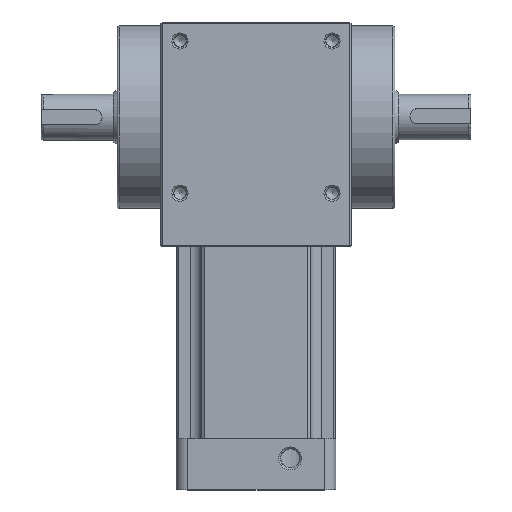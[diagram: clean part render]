
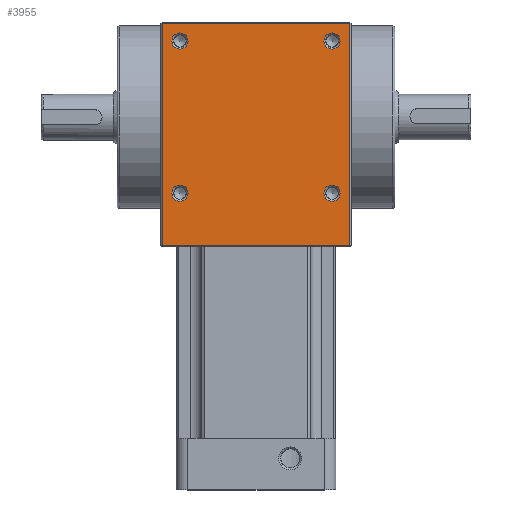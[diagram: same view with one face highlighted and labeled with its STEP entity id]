
A CAD part, top view. The second image highlights one B-rep face of the part: STEP entity #3955.
In plain terms, the highlighted planar face has unit normal (0, 0, 1).
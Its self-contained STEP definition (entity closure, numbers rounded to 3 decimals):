
#3836=CARTESIAN_POINT('',(-24.7,-33.7,50.0));
#3837=VERTEX_POINT('',#3836);
#3844=CARTESIAN_POINT('',(-24.7,24.7,50.0));
#3845=VERTEX_POINT('',#3844);
#3846=CARTESIAN_POINT('',(-24.7,24.7,50.0));
#3847=DIRECTION('',(0.0,-1.0,0.0));
#3848=VECTOR('',#3847,58.4);
#3849=LINE('',#3846,#3848);
#3850=EDGE_CURVE('',#3845,#3837,#3849,.T.);
#3868=CARTESIAN_POINT('',(24.7,-33.7,50.0));
#3869=VERTEX_POINT('',#3868);
#3876=CARTESIAN_POINT('',(24.7,-33.7,50.0));
#3877=DIRECTION('',(-1.0,0.0,0.0));
#3878=VECTOR('',#3877,49.4);
#3879=LINE('',#3876,#3878);
#3880=EDGE_CURVE('',#3869,#3837,#3879,.T.);
#3888=CARTESIAN_POINT('',(0.,0.0,50.0));
#3889=DIRECTION('',(0.0,0.0,1.0));
#3890=DIRECTION('',(1.0,0.0,0.0));
#3891=AXIS2_PLACEMENT_3D('',#3888,#3889,#3890);
#3892=PLANE('',#3891);
#3893=ORIENTED_EDGE('',*,*,#3880,.F.);
#3894=CARTESIAN_POINT('',(24.7,24.7,50.0));
#3895=VERTEX_POINT('',#3894);
#3896=CARTESIAN_POINT('',(24.7,24.7,50.0));
#3897=DIRECTION('',(0.0,-1.0,0.0));
#3898=VECTOR('',#3897,58.4);
#3899=LINE('',#3896,#3898);
#3900=EDGE_CURVE('',#3895,#3869,#3899,.T.);
#3901=ORIENTED_EDGE('',*,*,#3900,.F.);
#3902=CARTESIAN_POINT('',(-24.7,24.7,50.0));
#3903=DIRECTION('',(1.0,0.0,0.0));
#3904=VECTOR('',#3903,49.4);
#3905=LINE('',#3902,#3904);
#3906=EDGE_CURVE('',#3845,#3895,#3905,.T.);
#3907=ORIENTED_EDGE('',*,*,#3906,.F.);
#3908=ORIENTED_EDGE('',*,*,#3850,.T.);
#3909=EDGE_LOOP('',(#3893,#3901,#3907,#3908));
#3910=FACE_OUTER_BOUND('',#3909,.T.);
#3911=CARTESIAN_POINT('',(-17.879,-20.0,50.0));
#3912=VERTEX_POINT('',#3911);
#3913=CARTESIAN_POINT('',(-20.,-20.0,50.0));
#3914=DIRECTION('',(0.0,0.0,1.0));
#3915=DIRECTION('',(-1.0,0.0,0.0));
#3916=AXIS2_PLACEMENT_3D('',#3913,#3914,#3915);
#3917=CIRCLE('',#3916,2.121);
#3918=EDGE_CURVE('',#3912,#3912,#3917,.T.);
#3919=ORIENTED_EDGE('',*,*,#3918,.F.);
#3920=EDGE_LOOP('',(#3919));
#3921=FACE_BOUND('',#3920,.T.);
#3922=CARTESIAN_POINT('',(22.121,20.0,50.0));
#3923=VERTEX_POINT('',#3922);
#3924=CARTESIAN_POINT('',(20.0,20.0,50.0));
#3925=DIRECTION('',(0.0,0.0,1.0));
#3926=DIRECTION('',(-1.0,0.0,0.0));
#3927=AXIS2_PLACEMENT_3D('',#3924,#3925,#3926);
#3928=CIRCLE('',#3927,2.121);
#3929=EDGE_CURVE('',#3923,#3923,#3928,.T.);
#3930=ORIENTED_EDGE('',*,*,#3929,.F.);
#3931=EDGE_LOOP('',(#3930));
#3932=FACE_BOUND('',#3931,.T.);
#3933=CARTESIAN_POINT('',(-17.879,20.0,50.0));
#3934=VERTEX_POINT('',#3933);
#3935=CARTESIAN_POINT('',(-20.,20.0,50.0));
#3936=DIRECTION('',(0.0,0.0,1.0));
#3937=DIRECTION('',(-1.0,0.0,0.0));
#3938=AXIS2_PLACEMENT_3D('',#3935,#3936,#3937);
#3939=CIRCLE('',#3938,2.121);
#3940=EDGE_CURVE('',#3934,#3934,#3939,.T.);
#3941=ORIENTED_EDGE('',*,*,#3940,.F.);
#3942=EDGE_LOOP('',(#3941));
#3943=FACE_BOUND('',#3942,.T.);
#3944=CARTESIAN_POINT('',(22.121,-20.0,50.0));
#3945=VERTEX_POINT('',#3944);
#3946=CARTESIAN_POINT('',(20.,-20.0,50.0));
#3947=DIRECTION('',(0.0,0.0,1.0));
#3948=DIRECTION('',(-1.0,0.0,0.0));
#3949=AXIS2_PLACEMENT_3D('',#3946,#3947,#3948);
#3950=CIRCLE('',#3949,2.121);
#3951=EDGE_CURVE('',#3945,#3945,#3950,.T.);
#3952=ORIENTED_EDGE('',*,*,#3951,.F.);
#3953=EDGE_LOOP('',(#3952));
#3954=FACE_BOUND('',#3953,.T.);
#3955=ADVANCED_FACE('',(#3910,#3921,#3932,#3943,#3954),#3892,.T.);
